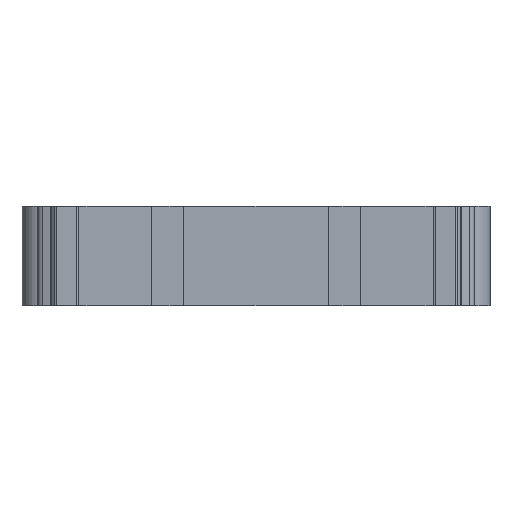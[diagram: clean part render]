
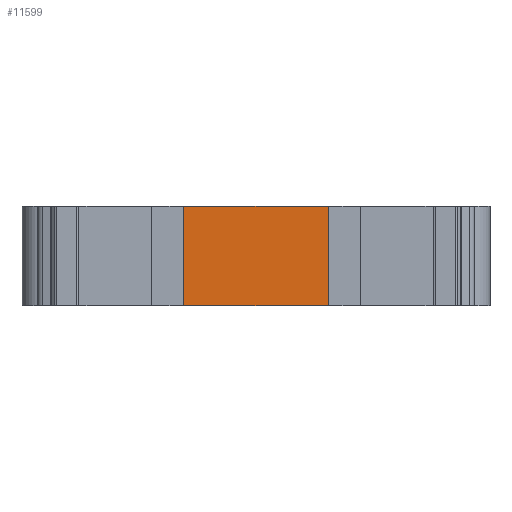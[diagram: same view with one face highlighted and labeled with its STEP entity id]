
A CAD part, front view. The second image highlights one B-rep face of the part: STEP entity #11599.
In plain terms, the highlighted planar face has unit normal (0, -1, 0).
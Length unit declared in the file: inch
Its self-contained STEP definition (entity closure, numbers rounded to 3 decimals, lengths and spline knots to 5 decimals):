
#11543=CARTESIAN_POINT('',(0.72441,-3.54331,1.0));
#11544=VERTEX_POINT('',#11543);
#11551=CARTESIAN_POINT('',(0.72441,-3.54331,0.0));
#11552=VERTEX_POINT('',#11551);
#11553=CARTESIAN_POINT('',(0.72441,-3.54331,0.0));
#11554=DIRECTION('',(0.0,0.0,1.0));
#11555=VECTOR('',#11554,1.0);
#11556=LINE('',#11553,#11555);
#11557=EDGE_CURVE('',#11552,#11544,#11556,.T.);
#11569=CARTESIAN_POINT('',(-0.7126,-3.54331,0.0));
#11570=DIRECTION('',(0.,-1.0,0.0));
#11571=DIRECTION('',(0.0,0.0,-1.0));
#11572=AXIS2_PLACEMENT_3D('',#11569,#11570,#11571);
#11573=PLANE('',#11572);
#11574=CARTESIAN_POINT('',(-0.72441,-3.54331,1.0));
#11575=VERTEX_POINT('',#11574);
#11576=CARTESIAN_POINT('',(0.72441,-3.54331,1.0));
#11577=DIRECTION('',(-1.0,0.,0.0));
#11578=VECTOR('',#11577,1.44882);
#11579=LINE('',#11576,#11578);
#11580=EDGE_CURVE('',#11544,#11575,#11579,.T.);
#11581=ORIENTED_EDGE('',*,*,#11580,.T.);
#11582=CARTESIAN_POINT('',(-0.72441,-3.54331,0.0));
#11583=VERTEX_POINT('',#11582);
#11584=CARTESIAN_POINT('',(-0.72441,-3.54331,0.0));
#11585=DIRECTION('',(0.0,0.0,1.0));
#11586=VECTOR('',#11585,1.0);
#11587=LINE('',#11584,#11586);
#11588=EDGE_CURVE('',#11583,#11575,#11587,.T.);
#11589=ORIENTED_EDGE('',*,*,#11588,.F.);
#11590=CARTESIAN_POINT('',(-0.72441,-3.54331,0.0));
#11591=DIRECTION('',(1.0,0.,0.0));
#11592=VECTOR('',#11591,1.44882);
#11593=LINE('',#11590,#11592);
#11594=EDGE_CURVE('',#11583,#11552,#11593,.T.);
#11595=ORIENTED_EDGE('',*,*,#11594,.T.);
#11596=ORIENTED_EDGE('',*,*,#11557,.T.);
#11597=EDGE_LOOP('',(#11581,#11589,#11595,#11596));
#11598=FACE_OUTER_BOUND('',#11597,.T.);
#11599=ADVANCED_FACE('',(#11598),#11573,.T.);
